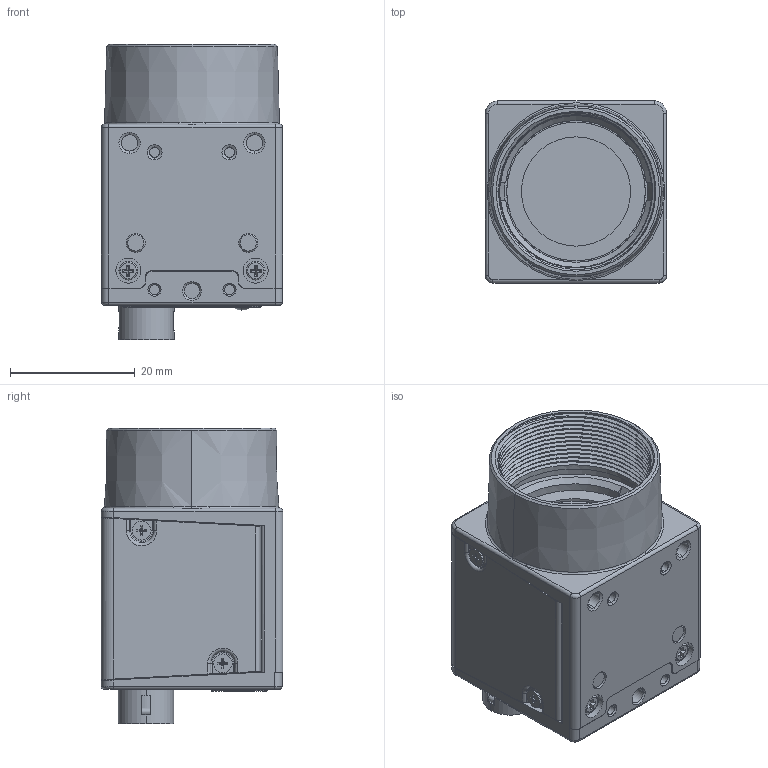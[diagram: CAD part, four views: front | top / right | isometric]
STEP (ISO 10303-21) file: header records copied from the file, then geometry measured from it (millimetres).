
FILE_DESCRIPTION((''),'2;1');
FILE_NAME('DH3-0694-6330_1','2023-11-24T14:33:54',('401332'),(''),'CREO PARAMETRIC BY PTC INC, 2020184','CREO PARAMETRIC BY PTC INC, 2020184','');
FILE_SCHEMA(('CONFIG_CONTROL_DESIGN','SHAPE_APPEARANCE_LAYERS_GROUPS'));
Products named in the file (1): DH3-0694-6330_1
Bounding box: 29 x 29.13 x 47.3 mm (x, y, z)
Volume: 21668.1 mm3; surface area: 15471.6 mm2
Topology: 1 solids, 3 shells, 1755 faces, 4826 edges, 3052 vertices
Faces by surface type: plane 846, cylinder 553, bspline 142, cone 134, torus 50, extrusion 28, sphere 2
Entity records: 83065 total; most frequent: CARTESIAN_POINT 23237, ORIENTED_EDGE 9640, DIRECTION 8452, PRESENTATION_STYLE_ASSIGNMENT 5025, STYLED_ITEM 4823, CURVE_STYLE 4820, EDGE_CURVE 4820, VERTEX_POINT 3109
